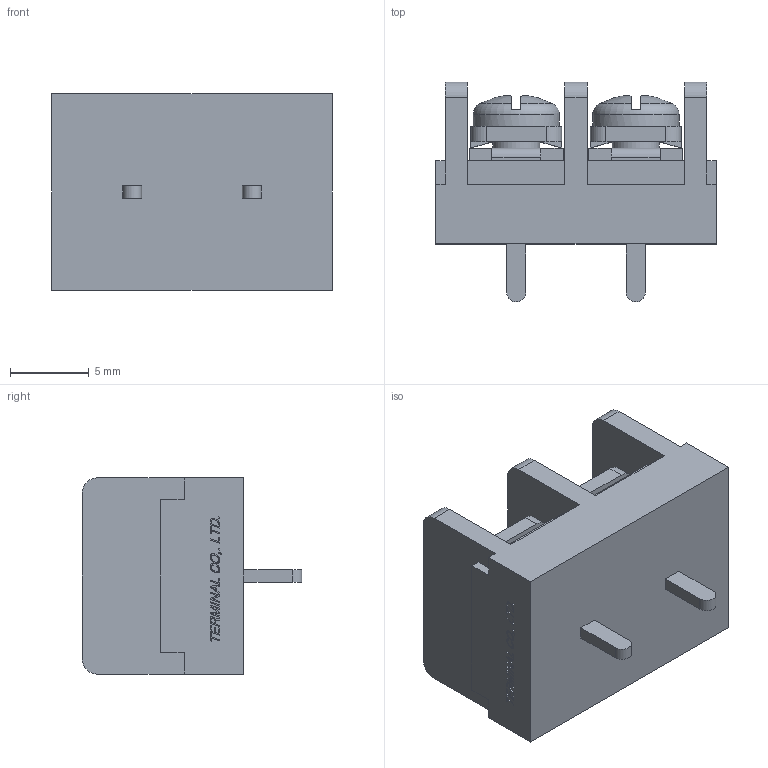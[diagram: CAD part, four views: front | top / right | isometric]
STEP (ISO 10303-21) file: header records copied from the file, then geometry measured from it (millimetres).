
FILE_DESCRIPTION(/* description */ ('Alibre Inc.'),/* implementation_level */ '2;1');
FILE_NAME(/* name */ 'export0',/* time_stamp */ '2015-10-26T16:44:35+09:00',/* author */ (''),/* organization */ (''),/* preprocessor_version */ 'ST-DEVELOPER v14',/* originating_system */ 'Alibre',/* authorisation */ '');
FILE_SCHEMA (('CONFIG_CONTROL_DESIGN'));
Length unit declared in the file: centimetre
Products named in the file (1): ID_1
Bounding box: 17.86 x 14 x 12.5 mm (x, y, z)
Volume: 1629.4 mm3; surface area: 1598 mm2
Topology: 1 solids, 1 shells, 578 faces, 1564 edges, 1036 vertices
Faces by surface type: plane 434, bspline 104, cylinder 24, cone 8, torus 4, sphere 4
Full cylindrical faces by diameter (mm): 3 x2, 5.5 x2
Entity records: 17493 total; most frequent: CARTESIAN_POINT 4171, ORIENTED_EDGE 3104, DIRECTION 1890, EDGE_CURVE 1552, VECTOR 1176, LINE 1176, VERTEX_POINT 1032, EDGE_LOOP 634
